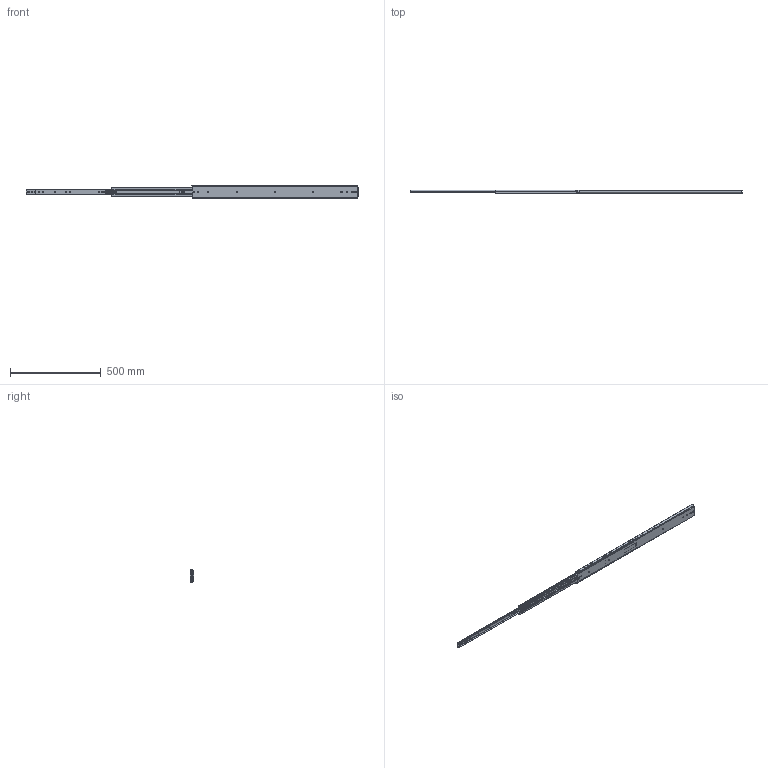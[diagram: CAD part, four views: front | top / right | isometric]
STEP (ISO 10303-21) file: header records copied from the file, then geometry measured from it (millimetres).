
FILE_DESCRIPTION((''),'2;1');
FILE_NAME('DG-76-02-40_ASM','2023-05-15T',('jishu015'),(''),'PRO/ENGINEER BY PARAMETRIC TECHNOLOGY CORPORATION, 2010280','PRO/ENGINEER BY PARAMETRIC TECHNOLOGY CORPORATION, 2010280','');
FILE_SCHEMA(('CONFIG_CONTROL_DESIGN'));
Length unit declared in the file: millimetre
Products named in the file (18): KP-76-04WAIKE3_______; 1076-WAIKEZIDANJIAO3_______; WAIK72________ASM; 1076XIAOZHUTIAO1_______; 163_______; 1076XIAOZHUTIAO1________ASM; KP-76-04ZHONGGUI3_______; 76CHANGGUIZHONGGUIJIAO3_______; 3X6WODIN3_______; PJ-76-33_______; 76-XIAOZHUJIA3_______; GANGZHU-XIAO3_______; ZHUJIA-XIAO3________ASM; ZHONGGUI3________ASM; KP-76-04NEIGUI3_______; XIN-TANPIAN_______; NEIGUI3________ASM; DG-76-02-40_ASM
Assembly tree (66 placements, depth 4):
  DG-76-02-40_ASM
    WAIK72________ASM
      KP-76-04WAIKE3_______
      1076-WAIKEZIDANJIAO3_______  x2
    1076XIAOZHUTIAO1________ASM  x2
      1076XIAOZHUTIAO1_______
      163_______
    ZHONGGUI3________ASM
      KP-76-04ZHONGGUI3_______
      76CHANGGUIZHONGGUIJIAO3_______
      3X6WODIN3_______
      PJ-76-33_______
      ZHUJIA-XIAO3________ASM
        76-XIAOZHUJIA3_______
        GANGZHU-XIAO3_______  x32
    NEIGUI3________ASM
      KP-76-04NEIGUI3_______
      XIN-TANPIAN_______
Bounding box: 1828.8 x 19.5 x 75.3 mm (x, y, z)
Volume: 596077.8 mm3; surface area: 571221.1 mm2
Topology: 78 solids, 78 shells, 1700 faces, 5334 edges, 3367 vertices
Faces by surface type: plane 937, cylinder 563, sphere 134, extrusion 48, cone 18
Entity records: 51056 total; most frequent: CARTESIAN_POINT 11405, ORIENTED_EDGE 8716, DIRECTION 7794, EDGE_CURVE 4358, VERTEX_POINT 2851, AXIS2_PLACEMENT_3D 2603, VECTOR 2588, LINE 2540
